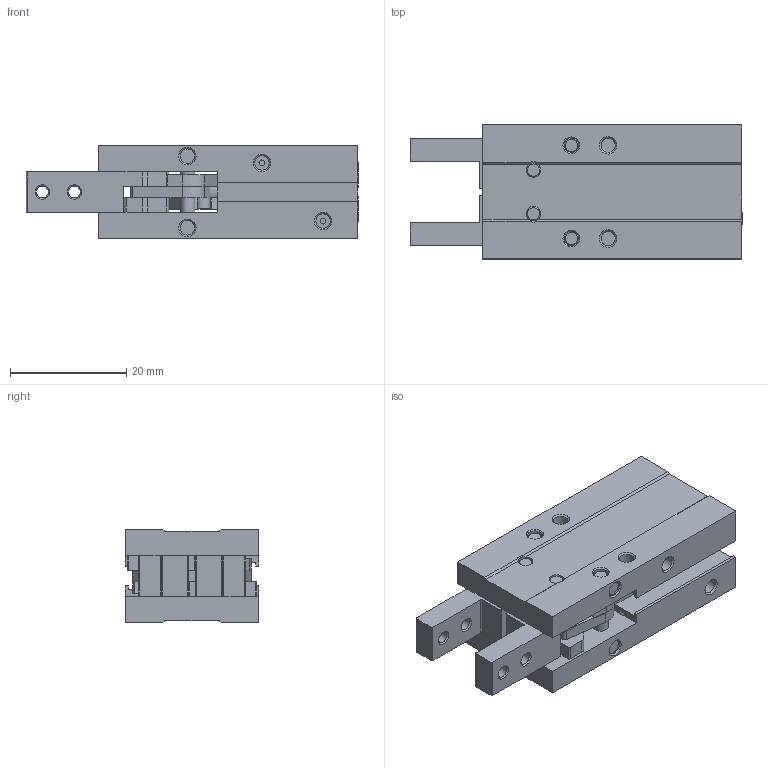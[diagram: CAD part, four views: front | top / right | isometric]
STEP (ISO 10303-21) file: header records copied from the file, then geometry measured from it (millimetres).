
FILE_DESCRIPTION(/* description */ ('STEP AP214'),/* implementation_level */ '2;1');
FILE_NAME(/* name */ 'HFP10(NC)+()',/* time_stamp */ '2024-10-28T15:01:55+01:00',/* author */ ('License CC BY-ND 4.0'),/* organization */ ('CADENAS'),/* preprocessor_version */ 'ST-DEVELOPER v19.3',/* originating_system */ 'PARTsolutions',/* authorisation */ ' ');
FILE_SCHEMA (('AUTOMOTIVE_DESIGN {1 0 10303 214 3 1 1}'));
Length unit declared in the file: millimetre
Products named in the file (4): HFP10(NC)+(); HFP10_body; HFP10_finger(0)
Assembly tree (3 placements, depth 2):
  HFP10(NC)+()
    HFP10(NC)+()
    HFP10_body
    HFP10_finger(0)
Bounding box: 57 x 23 x 16 mm (x, y, z)
Volume: 13482.1 mm3; surface area: 9776.2 mm2
Topology: 2 solids, 2 shells, 288 faces, 778 edges, 498 vertices
Faces by surface type: plane 157, cylinder 88, cone 43
Full cylindrical faces by diameter (mm): 1 x2, 2.013 x4, 2.459 x10, 2.5 x20, 6 x2, 8 x1, 10 x2, 11 x1
Entity records: 8671 total; most frequent: DIRECTION 1504, CARTESIAN_POINT 1491, ORIENTED_EDGE 1364, EDGE_CURVE 682, AXIS2_PLACEMENT_3D 542, VERTEX_POINT 480, LINE 420, VECTOR 420
